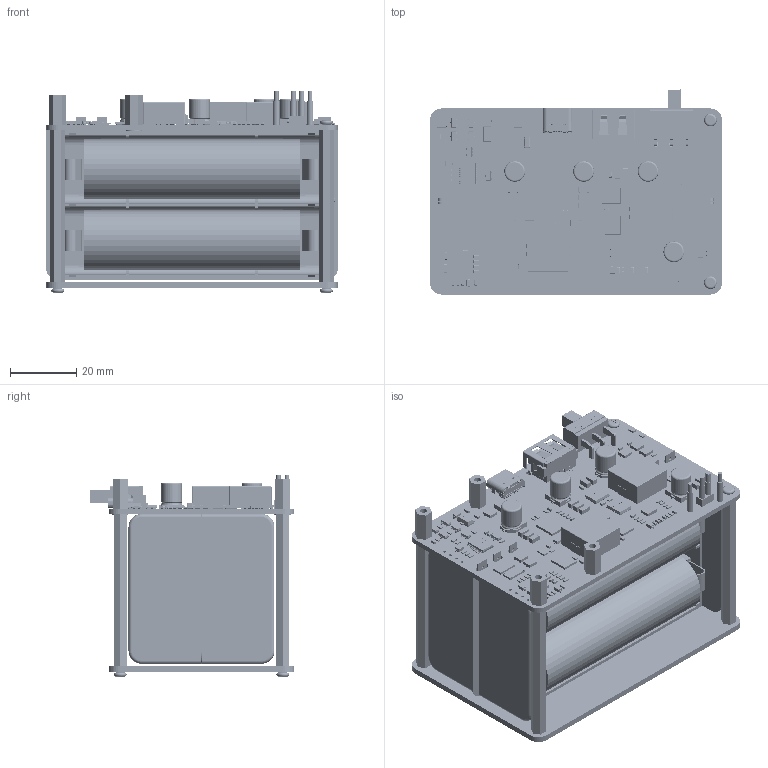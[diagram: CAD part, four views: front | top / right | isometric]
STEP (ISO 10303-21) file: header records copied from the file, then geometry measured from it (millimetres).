
FILE_DESCRIPTION(/* description */ ('Open CASCADE Model','CAx-IF Rec.Pracs.---Representation and Presentation of Product Manufacturing Information (PMI)---4.0---2014-10-13'),/* implementation_level */ '2;1');
FILE_NAME(/* name */ 'UPS HAT (E).step',/* time_stamp */ '2025-01-17T15:19:36+08:00',/* author */ (''),/* organization */ (''),/* preprocessor_version */ 'ST-DEVELOPER v20',/* originating_system */ 'Autodesk Translation Framework v13.20.0.188',/* authorisation */ '');
FILE_SCHEMA (('AP242_MANAGED_MODEL_BASED_3D_ENGINEERING_MIM_LF { 1 0 10303 442 1 1 4 }'));
Products named in the file (11): PCB; ups hat2; ups hat; PCB_1; M2.5*46; 亚克力; (未保存); M2.5*9; (未保存)_1; M2.5*5; 18650
Assembly tree (26 placements, depth 2):
  PCB
    ups hat  x2
    ups hat2  x2
    PCB_1
    M2.5*46  x4
    亚克力
    M2.5*5  x6
    (未保存)  x2
    M2.5*9  x2
    (未保存)_1  x2
    18650  x4
Bounding box: 88 x 61.71 x 60.65 mm (x, y, z)
Volume: 117025.3 mm3; surface area: 97226.9 mm2
Topology: 607 solids, 2314 shells, 14630 faces, 42354 edges, 30281 vertices
Faces by surface type: plane 9556, cylinder 3024, bspline 1564, sphere 406, cone 46, torus 34
Full cylindrical faces by diameter (mm): 0.3 x2, 0.375 x1, 0.5 x3, 0.762 x2, 0.889 x8, 0.9 x5, 1.2 x2, 1.35 x2, 1.4 x2, 1.6 x2, 1.9 x2, 1.923 x4, 2 x2, 2.075 x4, 2.43 x10, 3 x10, 4 x4, 5 x2, 6 x8, 6.25 x4, 7 x8, 9 x4, 10 x4, 18 x4
Entity records: 543146 total; most frequent: CARTESIAN_POINT 169453, ORIENTED_EDGE 72708, DIRECTION 70655, EDGE_CURVE 41539, LINE 30383, VECTOR 30383, VERTEX_POINT 30007, AXIS2_PLACEMENT_3D 20136
